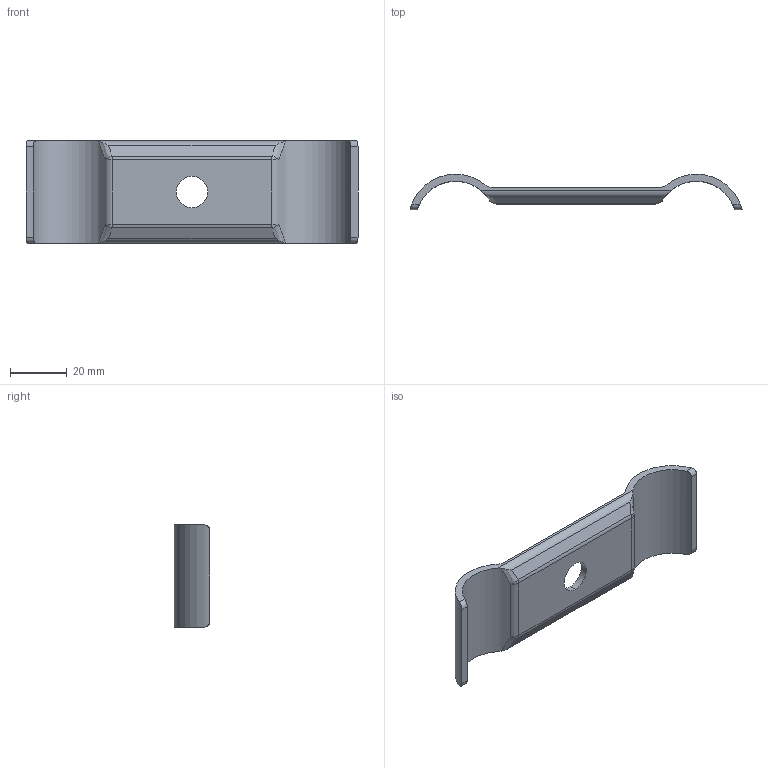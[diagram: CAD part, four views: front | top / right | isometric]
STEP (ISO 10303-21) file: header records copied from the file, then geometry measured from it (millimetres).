
FILE_DESCRIPTION (( 'STEP AP203' ), '1' );
FILE_NAME ('015.300.004.STEP', '2016-10-24T08:46:32', ( '' ), ( '' ), 'SwSTEP 2.0', 'SolidWorks 2016', '' );
FILE_SCHEMA (( 'CONFIG_CONTROL_DESIGN' ));
Length unit declared in the file: millimetre
Products named in the file (1): 015.300.004
Bounding box: 117.03 x 12.53 x 36 mm (x, y, z)
Volume: 11620 mm3; surface area: 10199.2 mm2
Topology: 1 solids, 1 shells, 46 faces, 116 edges, 64 vertices
Faces by surface type: cylinder 20, plane 10, bspline 8, sphere 8
Entity records: 1597 total; most frequent: CARTESIAN_POINT 559, ORIENTED_EDGE 216, DIRECTION 186, EDGE_CURVE 108, AXIS2_PLACEMENT_3D 75, VERTEX_POINT 64, EDGE_LOOP 48, FACE_OUTER_BOUND 46
